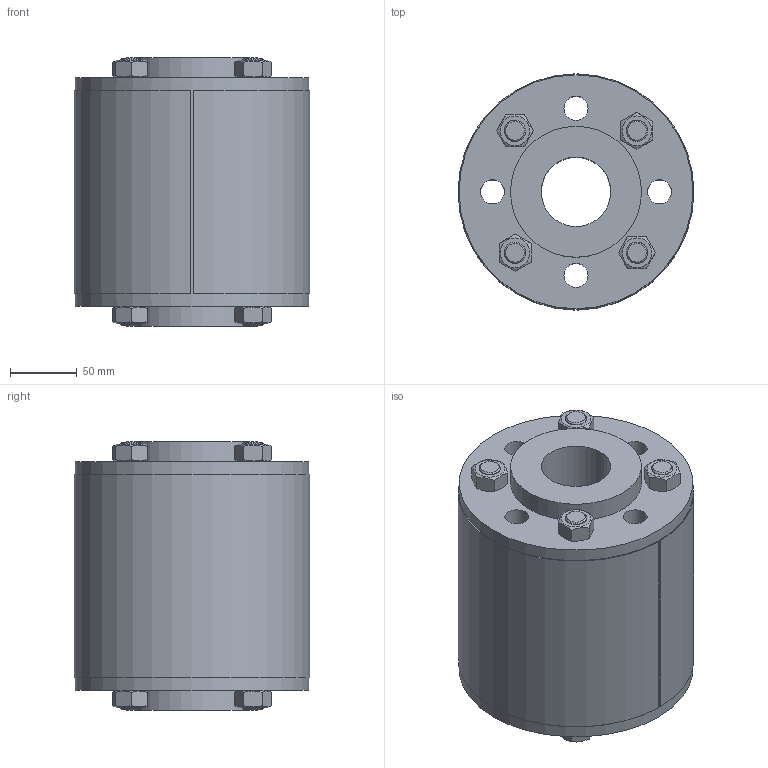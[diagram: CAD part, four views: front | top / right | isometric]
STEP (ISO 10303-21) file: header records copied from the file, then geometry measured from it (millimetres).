
FILE_DESCRIPTION(/* description */ ('ACI TYPE 620 DN50'),/* implementation_level */ '2;1');
FILE_NAME(/* name */ 'C:\Users\willms\Desktop\ACI-620-50.stp',/* time_stamp */ '2020-03-19T10:15:44+01:00',/* author */ ('götz'),/* organization */ ('ACI Industriearmaturen GmbH www.aci24.com info@aci24.com'),/* preprocessor_version */ 'ST-DEVELOPER v16.1',/* originating_system */ 'Autodesk Inventor 2016',/* authorisation */ 'ACI Industriearmaturen GmbH www.aci24.com info@aci24.com');
FILE_SCHEMA (('CONFIG_CONTROL_DESIGN'));
Length unit declared in the file: centimetre
Products named in the file (1): ACI-620-50
Bounding box: 176.5 x 176.49 x 201 mm (x, y, z)
Volume: 3854081.7 mm3; surface area: 228468.7 mm2
Topology: 1 solids, 9 shells, 150 faces, 340 edges, 219 vertices
Faces by surface type: plane 84, cone 40, cylinder 26
Full cylindrical faces by diameter (mm): 16 x16, 18 x4, 52 x1, 98 x2, 175 x1
Entity records: 3807 total; most frequent: CARTESIAN_POINT 799, DIRECTION 558, ORIENTED_EDGE 512, EDGE_CURVE 256, EDGE_LOOP 252, AXIS2_PLACEMENT_3D 247, VERTEX_POINT 200, FACE_OUTER_BOUND 150
